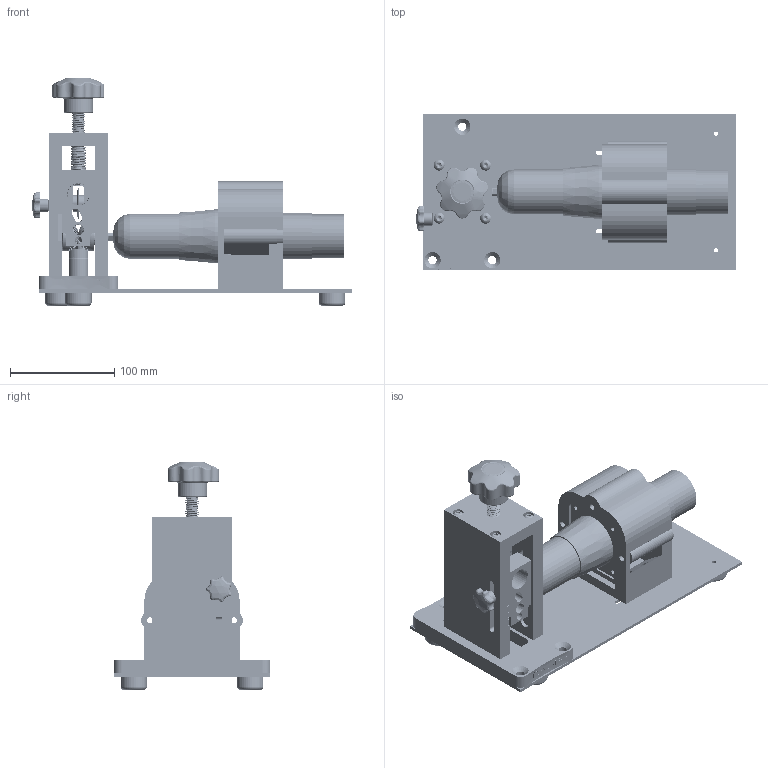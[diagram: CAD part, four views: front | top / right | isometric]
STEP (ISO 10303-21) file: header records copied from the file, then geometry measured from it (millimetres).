
FILE_DESCRIPTION(/* description */ (''),/* implementation_level */ '2;1');
FILE_NAME(/* name */ 'Stripmeister v28.step',/* time_stamp */ '2023-09-25T15:08:10-04:00',/* author */ (''),/* organization */ (''),/* preprocessor_version */ 'ST-DEVELOPER v19.2',/* originating_system */ 'Autodesk Translation Framework v11.17.0.187',/* authorisation */ '');
FILE_SCHEMA (('AUTOMOTIVE_DESIGN { 1 0 10303 214 3 1 1 }'));
Products named in the file (25): Stripmeister; Peg; Shaft; Cutter Assembly; 9657K134_Compression Spring; Wire Guide; 6092K41_Nylon Seven Arm Knob; Frame; Base; 92949A539_18-8 Stainless Steel Button Head Hex Drive Screw; Right Leg; 5972K501_Ball Bearing (1); Left Leg; 5972K501_Ball Bearing; Top; 92949A539_18-8 Stainless Steel Button Head Hex Drive Screw (1); Plate; Feet; Drill Assembly; Motor Assembly; Mount; A; B; C; D
Assembly tree (24 placements, depth 4):
  Stripmeister
    Peg
    Shaft
    Cutter Assembly
      9657K134_Compression Spring
    Wire Guide
      6092K41_Nylon Seven Arm Knob
    Frame
      Base
        92949A539_18-8 Stainless Steel Button Head Hex Drive Screw
      Right Leg
        5972K501_Ball Bearing (1)
      Left Leg
        5972K501_Ball Bearing
      Top
        92949A539_18-8 Stainless Steel Button Head Hex Drive Screw (1)
    Plate
      Feet
    Drill Assembly
      Motor Assembly
      Mount
        A
        B
        C
        D
Bounding box: 306.17 x 149.61 x 217.95 mm (x, y, z)
Volume: 1347441.2 mm3; surface area: 420682.1 mm2
Topology: 75 solids, 75 shells, 2461 faces, 6286 edges, 4022 vertices
Faces by surface type: cylinder 966, plane 800, bspline 284, torus 245, cone 132, sphere 34
Full cylindrical faces by diameter (mm): 3.795 x15, 4 x28, 4.067 x5, 4.445 x1, 4.7 x90, 4.763 x1, 4.826 x24, 5.116 x9, 6 x9, 6.35 x99, 6.604 x1, 7.938 x19, 8 x9, 9.944 x1, 10 x6, 10.18 x35, 10.319 x13, 11 x1, 11.049 x4, 11.1 x9, 11.735 x1, 12.555 x35, 12.7 x4, 13.681 x8, 15.9 x2, 16.319 x8, 18.399 x1, 18.653 x2, 20.841 x1, 22 x2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
Entity records: 123285 total; most frequent: CARTESIAN_POINT 65798, ORIENTED_EDGE 12448, DIRECTION 10971, EDGE_CURVE 6224, AXIS2_PLACEMENT_3D 4143, VERTEX_POINT 4022, EDGE_LOOP 2734, LINE 2685
